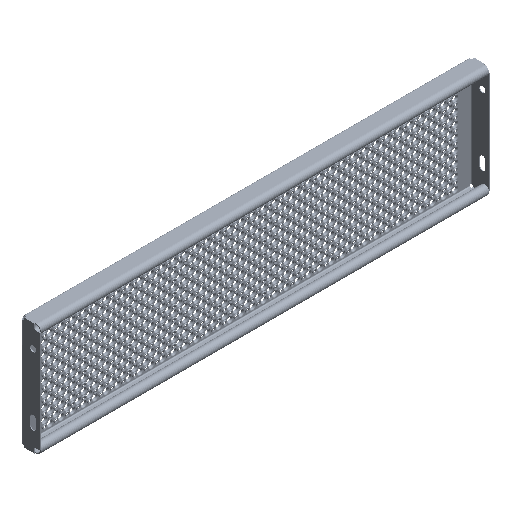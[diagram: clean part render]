
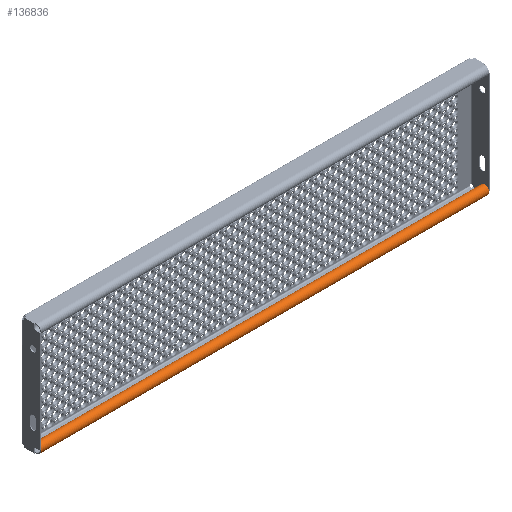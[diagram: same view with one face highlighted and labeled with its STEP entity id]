
A CAD part, isometric view. The second image highlights one B-rep face of the part: STEP entity #136836.
In plain terms, the highlighted cylindrical face has radius 10 mm (diameter 20 mm), a partial arc.
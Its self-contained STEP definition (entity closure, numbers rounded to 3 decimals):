
#1483 = VECTOR ( 'NONE', #437525, 1000. ) ;
#6394 = VECTOR ( 'NONE', #297054, 1000. ) ;
#10262 = CARTESIAN_POINT ( 'NONE',  ( 497.99, -31.998, -115. ) ) ;
#27125 = VERTEX_POINT ( 'NONE', #252916 ) ;
#35325 = CIRCLE ( 'NONE', #314852, 10. ) ;
#47069 = DIRECTION ( 'NONE',  ( 1., 0., 0. ) ) ;
#68133 = EDGE_CURVE ( 'NONE', #27125, #234087, #432968, .T. ) ;
#71384 = FACE_OUTER_BOUND ( 'NONE', #77060, .T. ) ;
#77060 = EDGE_LOOP ( 'NONE', ( #214730, #97018, #326923, #381432 ) ) ;
#77070 = DIRECTION ( 'NONE',  ( 0., 0., -1. ) ) ;
#97018 = ORIENTED_EDGE ( 'NONE', *, *, #173016, .F. ) ;
#98107 = AXIS2_PLACEMENT_3D ( 'NONE', #10262, #47069, #77070 ) ;
#108202 = DIRECTION ( 'NONE',  ( 0., 0.766, -0.643 ) ) ;
#118785 = AXIS2_PLACEMENT_3D ( 'NONE', #352439, #142741, #108202 ) ;
#136836 = ADVANCED_FACE ( 'NONE', ( #71384 ), #211897, .T. ) ;
#142741 = DIRECTION ( 'NONE',  ( 1., 0., 0. ) ) ;
#143878 = DIRECTION ( 'NONE',  ( -1., 0., 0. ) ) ;
#144420 = CARTESIAN_POINT ( 'NONE',  ( 497.99, -24.337, -121.428 ) ) ;
#146524 = VERTEX_POINT ( 'NONE', #192107 ) ;
#173016 = EDGE_CURVE ( 'NONE', #308889, #27125, #296767, .T. ) ;
#188772 = CARTESIAN_POINT ( 'NONE',  ( 497.99, -31.998, -125. ) ) ;
#192107 = CARTESIAN_POINT ( 'NONE',  ( -497.99, -24.337, -121.428 ) ) ;
#206521 = EDGE_CURVE ( 'NONE', #234087, #146524, #35325, .T. ) ;
#211897 = CYLINDRICAL_SURFACE ( 'NONE', #118785, 10. ) ;
#213050 = CARTESIAN_POINT ( 'NONE',  ( -497.99, -31.998, -115. ) ) ;
#214730 = ORIENTED_EDGE ( 'NONE', *, *, #68133, .F. ) ;
#234087 = VERTEX_POINT ( 'NONE', #333478 ) ;
#252916 = CARTESIAN_POINT ( 'NONE',  ( 497.99, -31.998, -125. ) ) ;
#269764 = EDGE_CURVE ( 'NONE', #146524, #308889, #297097, .T. ) ;
#284474 = DIRECTION ( 'NONE',  ( 0., 0., -1. ) ) ;
#296767 = CIRCLE ( 'NONE', #98107, 10. ) ;
#297054 = DIRECTION ( 'NONE',  ( -1., 0., 0. ) ) ;
#297097 = LINE ( 'NONE', #368483, #1483 ) ;
#308889 = VERTEX_POINT ( 'NONE', #144420 ) ;
#314852 = AXIS2_PLACEMENT_3D ( 'NONE', #213050, #143878, #284474 ) ;
#326923 = ORIENTED_EDGE ( 'NONE', *, *, #269764, .F. ) ;
#333478 = CARTESIAN_POINT ( 'NONE',  ( -497.99, -31.998, -125. ) ) ;
#352439 = CARTESIAN_POINT ( 'NONE',  ( 497.99, -31.998, -115. ) ) ;
#368483 = CARTESIAN_POINT ( 'NONE',  ( 497.99, -24.337, -121.428 ) ) ;
#381432 = ORIENTED_EDGE ( 'NONE', *, *, #206521, .F. ) ;
#432968 = LINE ( 'NONE', #188772, #6394 ) ;
#437525 = DIRECTION ( 'NONE',  ( 1., 0., 0. ) ) ;
